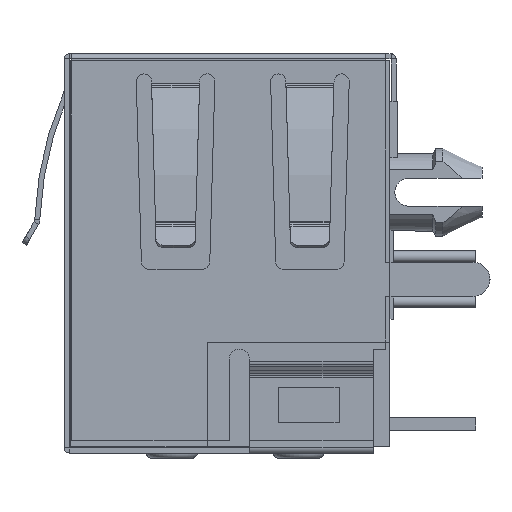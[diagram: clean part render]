
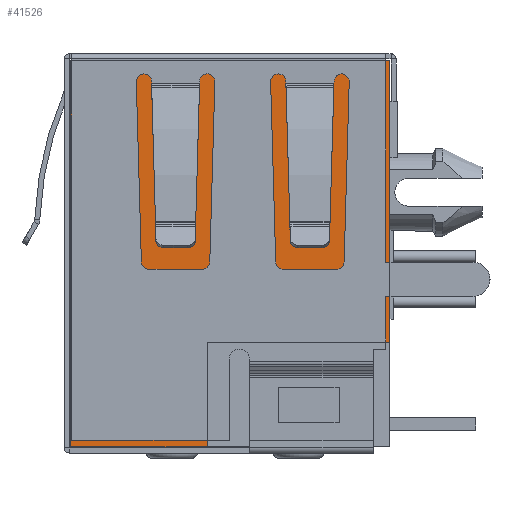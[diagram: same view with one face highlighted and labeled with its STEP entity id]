
A CAD part, left-side view. The second image highlights one B-rep face of the part: STEP entity #41526.
In plain terms, the highlighted planar face has unit normal (-1, 0, 0).
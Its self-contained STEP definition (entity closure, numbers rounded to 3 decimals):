
#314=DIRECTION('',(0.,1.,0.));
#315=VECTOR('',#314,12.6);
#316=CARTESIAN_POINT('',(-47.375,-6.25,15.51));
#317=LINE('',#316,#315);
#2426=DIRECTION('',(0.,0.,-1.));
#2427=VECTOR('',#2426,15.25);
#2428=CARTESIAN_POINT('',(-47.375,6.35,15.51));
#2429=LINE('',#2428,#2427);
#2434=DIRECTION('',(0.,0.,-1.));
#2435=VECTOR('',#2434,11.144);
#2436=CARTESIAN_POINT('',(-47.375,-6.25,15.51));
#2437=LINE('',#2436,#2435);
#2438=DIRECTION('',(0.,1.,0.));
#2439=VECTOR('',#2438,7.2);
#2440=CARTESIAN_POINT('',(-47.375,-6.25,4.366));
#2441=LINE('',#2440,#2439);
#2442=DIRECTION('',(0.,0.,-1.));
#2443=VECTOR('',#2442,4.106);
#2444=CARTESIAN_POINT('',(-47.375,0.95,4.366));
#2445=LINE('',#2444,#2443);
#2462=DIRECTION('',(0.,-1.,0.));
#2463=VECTOR('',#2462,5.4);
#2464=CARTESIAN_POINT('',(-47.375,6.35,0.26));
#2465=LINE('',#2464,#2463);
#31073=CARTESIAN_POINT('',(-47.375,-6.25,15.51));
#31075=VERTEX_POINT('',#31073);
#31077=CARTESIAN_POINT('',(-47.375,6.35,15.51));
#31078=VERTEX_POINT('',#31077);
#32927=CARTESIAN_POINT('',(-47.375,-6.25,4.366));
#32928=VERTEX_POINT('',#32927);
#33067=CARTESIAN_POINT('',(-47.375,6.35,0.26));
#33068=VERTEX_POINT('',#33067);
#33069=CARTESIAN_POINT('',(-47.375,0.95,4.366));
#33070=VERTEX_POINT('',#33069);
#33071=CARTESIAN_POINT('',(-47.375,0.95,0.26));
#33072=VERTEX_POINT('',#33071);
#41510=CARTESIAN_POINT('',(-47.375,0.,0.));
#41511=DIRECTION('',(1.,0.,0.));
#41512=DIRECTION('',(0.,1.,0.));
#41513=AXIS2_PLACEMENT_3D('',#41510,#41511,#41512);
#41514=PLANE('',#41513);
#41515=ORIENTED_EDGE('',*,*,#39415,.F.);
#41516=ORIENTED_EDGE('',*,*,#41317,.T.);
#41518=ORIENTED_EDGE('',*,*,#41517,.T.);
#41520=ORIENTED_EDGE('',*,*,#41519,.T.);
#41522=ORIENTED_EDGE('',*,*,#41521,.F.);
#41523=ORIENTED_EDGE('',*,*,#41502,.F.);
#41524=EDGE_LOOP('',(#41515,#41516,#41518,#41520,#41522,#41523));
#41525=FACE_OUTER_BOUND('',#41524,.F.);
#41526=ADVANCED_FACE('',(#41525),#41514,.F.);
#39415=EDGE_CURVE('',#31075,#31078,#317,.T.);
#41317=EDGE_CURVE('',#31075,#32928,#2437,.T.);
#41502=EDGE_CURVE('',#31078,#33068,#2429,.T.);
#41517=EDGE_CURVE('',#32928,#33070,#2441,.T.);
#41519=EDGE_CURVE('',#33070,#33072,#2445,.T.);
#41521=EDGE_CURVE('',#33068,#33072,#2465,.T.);
